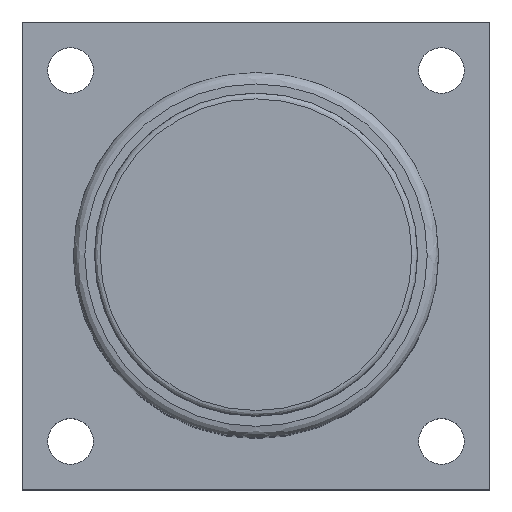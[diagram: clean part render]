
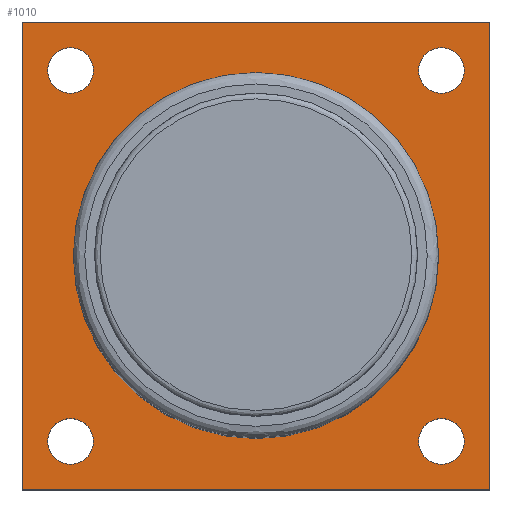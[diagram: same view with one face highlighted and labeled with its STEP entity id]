
A CAD part, top view. The second image highlights one B-rep face of the part: STEP entity #1010.
In plain terms, the highlighted planar face has unit normal (0, 0, 1).
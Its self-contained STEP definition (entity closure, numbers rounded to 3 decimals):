
#502=CARTESIAN_POINT('',(1333.488,964.787,2.0));
#503=VERTEX_POINT('',#502);
#510=CARTESIAN_POINT('',(1269.488,964.787,2.0));
#511=VERTEX_POINT('',#510);
#512=CARTESIAN_POINT('',(1301.488,964.787,2.0));
#513=DIRECTION('',(0.0,0.0,1.0));
#514=DIRECTION('',(1.0,0.0,0.0));
#515=AXIS2_PLACEMENT_3D('',#512,#513,#514);
#516=CIRCLE('',#515,32.0);
#517=EDGE_CURVE('',#503,#511,#516,.T.);
#519=CARTESIAN_POINT('',(1301.488,964.787,2.0));
#520=DIRECTION('',(0.0,0.0,1.0));
#521=DIRECTION('',(1.0,0.0,0.0));
#522=AXIS2_PLACEMENT_3D('',#519,#520,#521);
#523=CIRCLE('',#522,32.0);
#524=EDGE_CURVE('',#511,#503,#523,.T.);
#806=CARTESIAN_POINT('',(1342.488,923.787,2.0));
#807=VERTEX_POINT('',#806);
#814=CARTESIAN_POINT('',(1260.488,923.787,2.0));
#815=VERTEX_POINT('',#814);
#816=CARTESIAN_POINT('',(1260.488,923.787,2.0));
#817=DIRECTION('',(1.0,0.0,0.0));
#818=VECTOR('',#817,82.0);
#819=LINE('',#816,#818);
#820=EDGE_CURVE('',#815,#807,#819,.T.);
#844=CARTESIAN_POINT('',(1342.488,1005.787,2.0));
#845=VERTEX_POINT('',#844);
#852=CARTESIAN_POINT('',(1342.488,923.787,2.0));
#853=DIRECTION('',(0.0,1.0,0.0));
#854=VECTOR('',#853,82.0);
#855=LINE('',#852,#854);
#856=EDGE_CURVE('',#807,#845,#855,.T.);
#875=CARTESIAN_POINT('',(1260.488,1005.787,2.0));
#876=VERTEX_POINT('',#875);
#883=CARTESIAN_POINT('',(1342.488,1005.787,2.0));
#884=DIRECTION('',(-1.0,0.0,0.0));
#885=VECTOR('',#884,82.0);
#886=LINE('',#883,#885);
#887=EDGE_CURVE('',#845,#876,#886,.T.);
#905=CARTESIAN_POINT('',(1260.488,1005.787,2.0));
#906=DIRECTION('',(0.0,-1.0,0.0));
#907=VECTOR('',#906,82.0);
#908=LINE('',#905,#907);
#909=EDGE_CURVE('',#876,#815,#908,.T.);
#915=CARTESIAN_POINT('',(1252.287,915.587,2.0));
#916=DIRECTION('',(0.0,0.0,1.0));
#917=DIRECTION('',(1.0,0.0,0.0));
#918=AXIS2_PLACEMENT_3D('',#915,#916,#917);
#919=PLANE('',#918);
#920=ORIENTED_EDGE('',*,*,#820,.T.);
#921=ORIENTED_EDGE('',*,*,#856,.T.);
#922=ORIENTED_EDGE('',*,*,#887,.T.);
#923=ORIENTED_EDGE('',*,*,#909,.T.);
#924=EDGE_LOOP('',(#920,#921,#922,#923));
#925=FACE_OUTER_BOUND('',#924,.T.);
#926=ORIENTED_EDGE('',*,*,#524,.F.);
#927=ORIENTED_EDGE('',*,*,#517,.F.);
#928=EDGE_LOOP('',(#926,#927));
#929=FACE_BOUND('',#928,.T.);
#930=CARTESIAN_POINT('',(1337.988,997.287,2.0));
#931=VERTEX_POINT('',#930);
#932=CARTESIAN_POINT('',(1329.988,997.287,2.0));
#933=VERTEX_POINT('',#932);
#934=CARTESIAN_POINT('',(1333.988,997.287,2.0));
#935=DIRECTION('',(0.0,0.0,-1.0));
#936=DIRECTION('',(1.0,0.0,0.0));
#937=AXIS2_PLACEMENT_3D('',#934,#935,#936);
#938=CIRCLE('',#937,4.0);
#939=EDGE_CURVE('',#931,#933,#938,.T.);
#940=ORIENTED_EDGE('',*,*,#939,.T.);
#941=CARTESIAN_POINT('',(1333.988,997.287,2.0));
#942=DIRECTION('',(0.0,0.0,-1.0));
#943=DIRECTION('',(1.0,0.0,0.0));
#944=AXIS2_PLACEMENT_3D('',#941,#942,#943);
#945=CIRCLE('',#944,4.0);
#946=EDGE_CURVE('',#933,#931,#945,.T.);
#947=ORIENTED_EDGE('',*,*,#946,.T.);
#948=EDGE_LOOP('',(#940,#947));
#949=FACE_BOUND('',#948,.T.);
#950=CARTESIAN_POINT('',(1272.988,997.287,2.0));
#951=VERTEX_POINT('',#950);
#952=CARTESIAN_POINT('',(1264.988,997.287,2.0));
#953=VERTEX_POINT('',#952);
#954=CARTESIAN_POINT('',(1268.988,997.287,2.0));
#955=DIRECTION('',(0.0,0.0,-1.0));
#956=DIRECTION('',(1.0,0.0,0.0));
#957=AXIS2_PLACEMENT_3D('',#954,#955,#956);
#958=CIRCLE('',#957,4.0);
#959=EDGE_CURVE('',#951,#953,#958,.T.);
#960=ORIENTED_EDGE('',*,*,#959,.T.);
#961=CARTESIAN_POINT('',(1268.988,997.287,2.0));
#962=DIRECTION('',(0.0,0.0,-1.0));
#963=DIRECTION('',(1.0,0.0,0.0));
#964=AXIS2_PLACEMENT_3D('',#961,#962,#963);
#965=CIRCLE('',#964,4.0);
#966=EDGE_CURVE('',#953,#951,#965,.T.);
#967=ORIENTED_EDGE('',*,*,#966,.T.);
#968=EDGE_LOOP('',(#960,#967));
#969=FACE_BOUND('',#968,.T.);
#970=CARTESIAN_POINT('',(1272.988,932.287,2.0));
#971=VERTEX_POINT('',#970);
#972=CARTESIAN_POINT('',(1264.988,932.287,2.0));
#973=VERTEX_POINT('',#972);
#974=CARTESIAN_POINT('',(1268.988,932.287,2.0));
#975=DIRECTION('',(0.0,0.0,-1.0));
#976=DIRECTION('',(1.0,0.0,0.0));
#977=AXIS2_PLACEMENT_3D('',#974,#975,#976);
#978=CIRCLE('',#977,4.0);
#979=EDGE_CURVE('',#971,#973,#978,.T.);
#980=ORIENTED_EDGE('',*,*,#979,.T.);
#981=CARTESIAN_POINT('',(1268.988,932.287,2.0));
#982=DIRECTION('',(0.0,0.0,-1.0));
#983=DIRECTION('',(1.0,0.0,0.0));
#984=AXIS2_PLACEMENT_3D('',#981,#982,#983);
#985=CIRCLE('',#984,4.0);
#986=EDGE_CURVE('',#973,#971,#985,.T.);
#987=ORIENTED_EDGE('',*,*,#986,.T.);
#988=EDGE_LOOP('',(#980,#987));
#989=FACE_BOUND('',#988,.T.);
#990=CARTESIAN_POINT('',(1337.988,932.287,2.0));
#991=VERTEX_POINT('',#990);
#992=CARTESIAN_POINT('',(1329.988,932.287,2.0));
#993=VERTEX_POINT('',#992);
#994=CARTESIAN_POINT('',(1333.988,932.287,2.0));
#995=DIRECTION('',(0.0,0.0,-1.0));
#996=DIRECTION('',(1.0,0.0,0.0));
#997=AXIS2_PLACEMENT_3D('',#994,#995,#996);
#998=CIRCLE('',#997,4.0);
#999=EDGE_CURVE('',#991,#993,#998,.T.);
#1000=ORIENTED_EDGE('',*,*,#999,.T.);
#1001=CARTESIAN_POINT('',(1333.988,932.287,2.0));
#1002=DIRECTION('',(0.0,0.0,-1.0));
#1003=DIRECTION('',(1.0,0.0,0.0));
#1004=AXIS2_PLACEMENT_3D('',#1001,#1002,#1003);
#1005=CIRCLE('',#1004,4.0);
#1006=EDGE_CURVE('',#993,#991,#1005,.T.);
#1007=ORIENTED_EDGE('',*,*,#1006,.T.);
#1008=EDGE_LOOP('',(#1000,#1007));
#1009=FACE_BOUND('',#1008,.T.);
#1010=ADVANCED_FACE('',(#925,#929,#949,#969,#989,#1009),#919,.T.);
